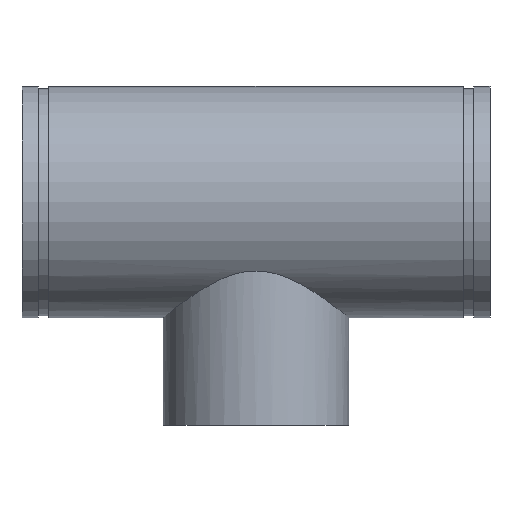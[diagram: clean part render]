
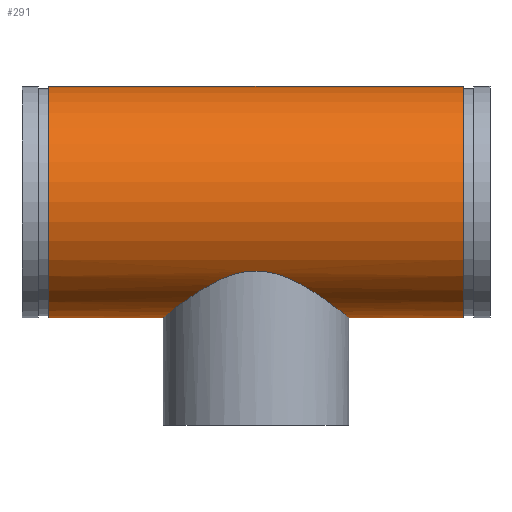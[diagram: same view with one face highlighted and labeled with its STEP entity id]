
A CAD part, top view. The second image highlights one B-rep face of the part: STEP entity #291.
In plain terms, the highlighted cylindrical face has radius 136.525 mm (diameter 273.05 mm), a full revolution.
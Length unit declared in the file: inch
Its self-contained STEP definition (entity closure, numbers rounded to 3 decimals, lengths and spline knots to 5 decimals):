
#45=B_SPLINE_CURVE_WITH_KNOTS('',3,(#511,#512,#513,#514,#515,#516,#517,
#518,#519,#520,#521,#522,#523,#524,#525,#526,#527,#528,#529,#530,#531,#532,
#533,#534,#535,#536,#537,#538,#539,#540,#541,#542,#543,#544,#545,#546,#547,
#548,#549,#550,#551,#552,#553,#554,#555,#556,#557,#558,#559,#560,#561,#562,
#563,#564,#565,#566),.UNSPECIFIED.,.F.,.F.,(4,2,2,2,2,2,2,2,2,2,2,2,2,2,
2,2,2,2,2,2,2,2,2,2,2,2,2,4),(0.,1.12425,2.2485,4.49699,
6.74549,8.99399,11.17125,13.34851,15.52578,
17.70304,19.8803,22.05757,24.23483,26.41209,
28.66059,30.90909,33.15758,34.28183,35.40608,
36.53033,37.65458,39.90307,42.15157,44.40006,
46.57733,48.75459,50.93186,53.10912),
 .UNSPECIFIED.);
#46=B_SPLINE_CURVE_WITH_KNOTS('',3,(#567,#568,#569,#570,#571,#572,#573,
#574,#575,#576,#577,#578,#579,#580,#581,#582,#583,#584,#585,#586),
 .UNSPECIFIED.,.F.,.F.,(4,2,2,2,2,2,2,2,2,4),(53.10912,55.28638,
57.46365,59.64091,61.81817,64.06667,66.31517,
68.56366,69.68791,70.81216),.UNSPECIFIED.);
#51=LINE('',#508,#59);
#59=VECTOR('',#410,5.375);
#67=CYLINDRICAL_SURFACE('',#338,5.375);
#77=FACE_BOUND('',#108,.T.);
#88=FACE_OUTER_BOUND('',#107,.T.);
#107=EDGE_LOOP('',(#221,#222,#223,#224));
#108=EDGE_LOOP('',(#225,#226));
#121=CIRCLE('',#321,5.375);
#132=CIRCLE('',#337,5.375);
#141=VERTEX_POINT('',#476);
#152=VERTEX_POINT('',#505);
#153=VERTEX_POINT('',#509);
#154=VERTEX_POINT('',#510);
#165=EDGE_CURVE('',#141,#141,#121,.T.);
#178=EDGE_CURVE('',#152,#152,#132,.T.);
#179=EDGE_CURVE('',#152,#141,#51,.T.);
#180=EDGE_CURVE('',#153,#154,#45,.T.);
#181=EDGE_CURVE('',#154,#153,#46,.T.);
#221=ORIENTED_EDGE('',*,*,#178,.T.);
#222=ORIENTED_EDGE('',*,*,#179,.T.);
#223=ORIENTED_EDGE('',*,*,#165,.T.);
#224=ORIENTED_EDGE('',*,*,#179,.F.);
#225=ORIENTED_EDGE('',*,*,#180,.F.);
#226=ORIENTED_EDGE('',*,*,#181,.F.);
#291=ADVANCED_FACE('',(#88,#77),#67,.T.);
#321=AXIS2_PLACEMENT_3D('',#477,#372,#373);
#337=AXIS2_PLACEMENT_3D('',#506,#406,#407);
#338=AXIS2_PLACEMENT_3D('',#507,#408,#409);
#372=DIRECTION('center_axis',(-1.,0.,0.));
#373=DIRECTION('ref_axis',(0.,-1.,0.));
#406=DIRECTION('center_axis',(1.,0.,0.));
#407=DIRECTION('ref_axis',(0.,-1.,0.));
#408=DIRECTION('center_axis',(-1.,0.,0.));
#409=DIRECTION('ref_axis',(0.,-1.,0.));
#410=DIRECTION('',(1.,0.,0.));
#476=CARTESIAN_POINT('',(9.63,5.375,0.));
#477=CARTESIAN_POINT('Origin',(9.63,0.,0.));
#505=CARTESIAN_POINT('',(-9.63,5.375,0.));
#506=CARTESIAN_POINT('Origin',(-9.63,0.,0.));
#507=CARTESIAN_POINT('Origin',(10.88,0.,0.));
#508=CARTESIAN_POINT('',(10.88,5.375,0.));
#509=CARTESIAN_POINT('',(0.,-3.20827,-4.3125));
#510=CARTESIAN_POINT('',(-4.3125,-5.375,0.));
#511=CARTESIAN_POINT('Ctrl Pts',(0.,-3.20827,
-4.3125));
#512=CARTESIAN_POINT('Ctrl Pts',(0.14754,-3.20827,-4.3125));
#513=CARTESIAN_POINT('Ctrl Pts',(0.29444,-3.21853,-4.30492));
#514=CARTESIAN_POINT('Ctrl Pts',(0.58518,-3.25802,-4.27511));
#515=CARTESIAN_POINT('Ctrl Pts',(0.72903,-3.28722,-4.25289));
#516=CARTESIAN_POINT('Ctrl Pts',(1.15366,-3.39842,-4.16536));
#517=CARTESIAN_POINT('Ctrl Pts',(1.42766,-3.50402,-4.07914));
#518=CARTESIAN_POINT('Ctrl Pts',(1.94791,-3.74624,-3.85788));
#519=CARTESIAN_POINT('Ctrl Pts',(2.19453,-3.88274,-3.72263));
#520=CARTESIAN_POINT('Ctrl Pts',(2.65152,-4.15816,-3.41225));
#521=CARTESIAN_POINT('Ctrl Pts',(2.86182,-4.29703,-3.23698));
#522=CARTESIAN_POINT('Ctrl Pts',(3.23103,-4.5514,-2.86776));
#523=CARTESIAN_POINT('Ctrl Pts',(3.40483,-4.67707,-2.66103));
#524=CARTESIAN_POINT('Ctrl Pts',(3.71653,-4.90863,-2.20485));
#525=CARTESIAN_POINT('Ctrl Pts',(3.85444,-5.01445,-1.95535));
#526=CARTESIAN_POINT('Ctrl Pts',(4.07969,-5.18959,-1.42698));
#527=CARTESIAN_POINT('Ctrl Pts',(4.16722,-5.25903,-1.14749));
#528=CARTESIAN_POINT('Ctrl Pts',(4.28365,-5.35177,-0.57687));
#529=CARTESIAN_POINT('Ctrl Pts',(4.3125,-5.375,-0.28573));
#530=CARTESIAN_POINT('Ctrl Pts',(4.3125,-5.375,0.28573));
#531=CARTESIAN_POINT('Ctrl Pts',(4.28365,-5.35177,0.57687));
#532=CARTESIAN_POINT('Ctrl Pts',(4.16722,-5.25903,1.14749));
#533=CARTESIAN_POINT('Ctrl Pts',(4.07969,-5.18959,1.42698));
#534=CARTESIAN_POINT('Ctrl Pts',(3.85444,-5.01445,1.95535));
#535=CARTESIAN_POINT('Ctrl Pts',(3.71653,-4.90863,2.20485));
#536=CARTESIAN_POINT('Ctrl Pts',(3.40483,-4.67707,2.66103));
#537=CARTESIAN_POINT('Ctrl Pts',(3.23103,-4.5514,2.86776));
#538=CARTESIAN_POINT('Ctrl Pts',(2.86182,-4.29703,3.23698));
#539=CARTESIAN_POINT('Ctrl Pts',(2.65152,-4.15816,3.41225));
#540=CARTESIAN_POINT('Ctrl Pts',(2.19453,-3.88274,3.72263));
#541=CARTESIAN_POINT('Ctrl Pts',(1.94791,-3.74624,3.85788));
#542=CARTESIAN_POINT('Ctrl Pts',(1.42766,-3.50402,4.07914));
#543=CARTESIAN_POINT('Ctrl Pts',(1.15366,-3.39842,4.16536));
#544=CARTESIAN_POINT('Ctrl Pts',(0.72903,-3.28722,4.25289));
#545=CARTESIAN_POINT('Ctrl Pts',(0.58518,-3.25802,4.27511));
#546=CARTESIAN_POINT('Ctrl Pts',(0.29444,-3.21853,4.30492));
#547=CARTESIAN_POINT('Ctrl Pts',(0.14754,-3.20827,4.3125));
#548=CARTESIAN_POINT('Ctrl Pts',(-0.14754,-3.20827,4.3125));
#549=CARTESIAN_POINT('Ctrl Pts',(-0.29444,-3.21853,4.30492));
#550=CARTESIAN_POINT('Ctrl Pts',(-0.58518,-3.25802,4.27511));
#551=CARTESIAN_POINT('Ctrl Pts',(-0.72903,-3.28722,4.25289));
#552=CARTESIAN_POINT('Ctrl Pts',(-1.15366,-3.39842,4.16536));
#553=CARTESIAN_POINT('Ctrl Pts',(-1.42766,-3.50402,4.07914));
#554=CARTESIAN_POINT('Ctrl Pts',(-1.94791,-3.74624,3.85788));
#555=CARTESIAN_POINT('Ctrl Pts',(-2.19453,-3.88274,3.72263));
#556=CARTESIAN_POINT('Ctrl Pts',(-2.65152,-4.15816,3.41225));
#557=CARTESIAN_POINT('Ctrl Pts',(-2.86182,-4.29703,3.23698));
#558=CARTESIAN_POINT('Ctrl Pts',(-3.23103,-4.5514,2.86776));
#559=CARTESIAN_POINT('Ctrl Pts',(-3.40483,-4.67707,2.66103));
#560=CARTESIAN_POINT('Ctrl Pts',(-3.71653,-4.90863,2.20485));
#561=CARTESIAN_POINT('Ctrl Pts',(-3.85444,-5.01445,1.95535));
#562=CARTESIAN_POINT('Ctrl Pts',(-4.07969,-5.18959,1.42698));
#563=CARTESIAN_POINT('Ctrl Pts',(-4.16722,-5.25903,1.14749));
#564=CARTESIAN_POINT('Ctrl Pts',(-4.28365,-5.35177,0.57687));
#565=CARTESIAN_POINT('Ctrl Pts',(-4.3125,-5.375,0.28573));
#566=CARTESIAN_POINT('Ctrl Pts',(-4.3125,-5.375,0.));
#567=CARTESIAN_POINT('Ctrl Pts',(-4.3125,-5.375,0.));
#568=CARTESIAN_POINT('Ctrl Pts',(-4.3125,-5.375,-0.28573));
#569=CARTESIAN_POINT('Ctrl Pts',(-4.28365,-5.35177,-0.57687));
#570=CARTESIAN_POINT('Ctrl Pts',(-4.16722,-5.25903,-1.14749));
#571=CARTESIAN_POINT('Ctrl Pts',(-4.07969,-5.18959,-1.42698));
#572=CARTESIAN_POINT('Ctrl Pts',(-3.85444,-5.01445,-1.95535));
#573=CARTESIAN_POINT('Ctrl Pts',(-3.71653,-4.90863,-2.20485));
#574=CARTESIAN_POINT('Ctrl Pts',(-3.40483,-4.67707,-2.66103));
#575=CARTESIAN_POINT('Ctrl Pts',(-3.23103,-4.5514,-2.86776));
#576=CARTESIAN_POINT('Ctrl Pts',(-2.86182,-4.29703,-3.23698));
#577=CARTESIAN_POINT('Ctrl Pts',(-2.65152,-4.15816,-3.41225));
#578=CARTESIAN_POINT('Ctrl Pts',(-2.19453,-3.88274,-3.72263));
#579=CARTESIAN_POINT('Ctrl Pts',(-1.94791,-3.74624,-3.85788));
#580=CARTESIAN_POINT('Ctrl Pts',(-1.42766,-3.50402,-4.07914));
#581=CARTESIAN_POINT('Ctrl Pts',(-1.15366,-3.39842,-4.16536));
#582=CARTESIAN_POINT('Ctrl Pts',(-0.72903,-3.28722,-4.25289));
#583=CARTESIAN_POINT('Ctrl Pts',(-0.58518,-3.25802,-4.27511));
#584=CARTESIAN_POINT('Ctrl Pts',(-0.29444,-3.21853,-4.30492));
#585=CARTESIAN_POINT('Ctrl Pts',(-0.14754,-3.20827,-4.3125));
#586=CARTESIAN_POINT('Ctrl Pts',(0.,-3.20827,
-4.3125));
